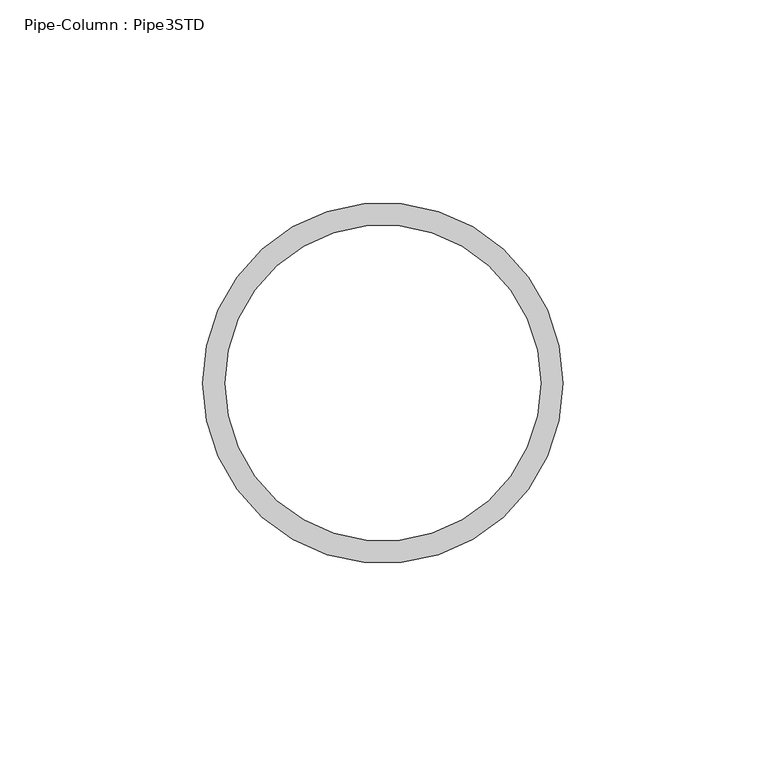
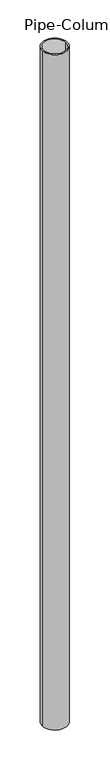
"""IFC4 building model written with IfcOpenShell, lengths in millimetres: column geometry, Pipe-Column : Pipe3STD."""

import ifcopenshell
import ifcopenshell.guid

model = None  # the IFC model being written
_history = None  # IfcOwnerHistory: only IFC2X3 demands one
_inside = {}  # id of a spatial element -> (the spatial element, [elements in it])
_under = {}  # id of a project, library or spatial element -> (it, [spatial elements below it])
_declared = {}  # id of a project -> (the project, [libraries it declares])
_typed = {}  # id of a type object -> (the type object, [elements of that type])
_made_of = {}  # id of a material, layer set ... -> (it, [elements and type objects made of it])


def new_model(schema):
    """Start an empty IFC model of exactly this schema.

    Asked for "IFC4X3", IfcOpenShell would pick the latest addendum, in which some entities
    have other attributes; the version numbers below select the first issue.
    IFC2X3 requires an IfcOwnerHistory on every rooted entity: one is made here for all.
    """
    global model, _history
    if schema == "IFC4X3":
        model = ifcopenshell.file(schema_version=(4, 3, 0, 0))
    else:
        model = ifcopenshell.file(schema=schema)
    _inside.clear()
    _under.clear()
    _declared.clear()
    _typed.clear()
    _made_of.clear()
    _history = None
    if model.schema == "IFC2X3":
        org = make("IfcOrganization", Name="unknown")
        user = make(
            "IfcPersonAndOrganization",
            ThePerson=make("IfcPerson", FamilyName="unknown"),
            TheOrganization=org,
        )
        app = make(
            "IfcApplication",
            ApplicationDeveloper=org,
            Version="unknown",
            ApplicationFullName="unknown",
            ApplicationIdentifier="unknown",
        )
        _history = make(
            "IfcOwnerHistory",
            OwningUser=user,
            OwningApplication=app,
            ChangeAction="ADDED",
            CreationDate=0,
        )
    return model


def make(cls, **values):
    """One entity of the class cls with the attributes given. An attribute that is None is left unset."""
    return model.create_entity(
        cls, **{name: value for name, value in values.items() if value is not None}
    )


def rooted(cls, **values):
    """An entity with a GlobalId (a new one), such as an element, a storey or a relation."""
    return make(cls, GlobalId=ifcopenshell.guid.new(), OwnerHistory=_history, **values)


def si_unit(unit_type, name, prefix=None):
    """IfcSIUnit, for example si_unit("LENGTHUNIT", "METRE", prefix="MILLI")."""
    return make("IfcSIUnit", UnitType=unit_type, Prefix=prefix, Name=name)


def assignment(units):
    """IfcUnitAssignment: the units of a project."""
    return None if units is None else make("IfcUnitAssignment", Units=units)


def point(xyz):
    """IfcCartesianPoint."""
    return None if xyz is None else make("IfcCartesianPoint", Coordinates=xyz)


def direction(xyz):
    """IfcDirection."""
    return None if xyz is None else make("IfcDirection", DirectionRatios=xyz)


def frame(location, z_axis=None, x_axis=None):
    """IfcAxis2Placement3D, a coordinate frame: its origin and axes. An axis left out is left unset."""
    return make(
        "IfcAxis2Placement3D",
        Location=point(location),
        Axis=direction(z_axis),
        RefDirection=direction(x_axis),
    )


def frame_2d(location, x_axis=None):
    """IfcAxis2Placement2D, a coordinate frame in the plane: its origin and x axis."""
    return make(
        "IfcAxis2Placement2D", Location=point(location), RefDirection=direction(x_axis)
    )


def origin():
    """The frame at (0, 0, 0) with its axes left unset."""
    return frame((0.0, 0.0, 0.0))


def origin_2d():
    """The frame at (0, 0) in the plane with its x axis left unset."""
    return frame_2d((0.0, 0.0))


def place(relative_to, where):
    """IfcLocalPlacement: puts the frame where relative to a parent placement (None: the world)."""
    return make(
        "IfcLocalPlacement", PlacementRelTo=relative_to, RelativePlacement=where
    )


def context(
    kind, dimensions, precision=None, world=None, true_north=None, identifier=None
):
    """IfcGeometricRepresentationContext, for example the 3D "Model" context."""
    return make(
        "IfcGeometricRepresentationContext",
        ContextIdentifier=identifier,
        ContextType=kind,
        CoordinateSpaceDimension=dimensions,
        Precision=precision,
        WorldCoordinateSystem=world,
        TrueNorth=true_north,
    )


def project(units=None, contexts=None):
    """IfcProject with its units and contexts."""
    return rooted(
        "IfcProject",
        Name="project",
        RepresentationContexts=contexts,
        UnitsInContext=assignment(units),
    )


def spatial(cls, under=None, at=None, **own):
    """A site, building, storey or space (cls), placed at a placement, below another one or the project."""
    s = rooted(cls, ObjectPlacement=at, **own)
    if under is not None:
        _under.setdefault(under.id(), (under, []))[1].append(s)
    return s


def circle_curve(where, radius):
    """IfcCircle in the frame where."""
    return make("IfcCircle", Position=where, Radius=radius)


def trimmed(basis, trim1, trim2, sense, master):
    """IfcTrimmedCurve: the piece of a basis curve between two trims."""
    return make(
        "IfcTrimmedCurve",
        BasisCurve=basis,
        Trim1=trim1,
        Trim2=trim2,
        SenseAgreement=sense,
        MasterRepresentation=master,
    )


def segment(curve, same_sense, transition):
    """IfcCompositeCurveSegment."""
    return make(
        "IfcCompositeCurveSegment",
        Transition=transition,
        SameSense=same_sense,
        ParentCurve=curve,
    )


def composite_curve(segments, self_intersect=None):
    """IfcCompositeCurve: segments joined end to end."""
    return make("IfcCompositeCurve", Segments=segments, SelfIntersect=self_intersect)


def outline(outer, holes=None, kind="AREA"):
    """IfcArbitraryClosedProfileDef: a profile drawn as a closed curve; with holes, ...WithVoids."""
    if holes is None:
        return make("IfcArbitraryClosedProfileDef", ProfileType=kind, OuterCurve=outer)
    return make(
        "IfcArbitraryProfileDefWithVoids",
        ProfileType=kind,
        OuterCurve=outer,
        InnerCurves=holes,
    )


def extrude(swept, where, along, depth):
    """IfcExtrudedAreaSolid: the profile swept, set in the frame where, extruded along a direction by depth."""
    return make(
        "IfcExtrudedAreaSolid",
        SweptArea=swept,
        Position=where,
        ExtrudedDirection=direction(along),
        Depth=depth,
    )


def shape(context_of_items, identifier, shape_type, items):
    """IfcShapeRepresentation: the items that make up one representation, for example the "Body"."""
    return make(
        "IfcShapeRepresentation",
        ContextOfItems=context_of_items,
        RepresentationIdentifier=identifier,
        RepresentationType=shape_type,
        Items=items,
    )


def source(mapping_origin, context_of_items, identifier, shape_type, items):
    """IfcRepresentationMap: a shape defined once, which mapped items show again and again."""
    return make(
        "IfcRepresentationMap",
        MappingOrigin=mapping_origin,
        MappedRepresentation=shape(context_of_items, identifier, shape_type, items),
    )


def transform(
    local_origin,
    x_axis=None,
    y_axis=None,
    z_axis=None,
    scale=None,
    scale2=None,
    scale3=None,
    uniform=True,
):
    """IfcCartesianTransformationOperator3D, or its non-uniform kind. x_axis, y_axis, z_axis: its Axis1, 2, 3."""
    if uniform:
        return make(
            "IfcCartesianTransformationOperator3D",
            Axis1=direction(x_axis),
            Axis2=direction(y_axis),
            LocalOrigin=point(local_origin),
            Scale=scale,
            Axis3=direction(z_axis),
        )
    return make(
        "IfcCartesianTransformationOperator3DnonUniform",
        Axis1=direction(x_axis),
        Axis2=direction(y_axis),
        LocalOrigin=point(local_origin),
        Scale=scale,
        Axis3=direction(z_axis),
        Scale2=scale2,
        Scale3=scale3,
    )


def mapped(mapping_source, mapping_target):
    """IfcMappedItem: shows the shape of a source again, moved by a transform."""
    return make(
        "IfcMappedItem", MappingSource=mapping_source, MappingTarget=mapping_target
    )


def made_of(thing, what):
    """Note that an element or type object is made of a material, layer set ...; save() writes the relation."""
    if what is not None:
        _made_of.setdefault(what.id(), (what, []))[1].append(thing)
    return thing


def element(
    cls,
    number,
    at=None,
    inside=None,
    cuts=None,
    type_object=None,
    material=None,
    context=None,
    identifier="Body",
    shape_type=None,
    held_by="IfcProductDefinitionShape",
    body=None,
    shapes=None,
    **own,
):
    """One element of the class cls, such as IfcWall. Its Tag is "e" and its number.

    at: its placement. inside: the storey or other place that contains it. cuts: it is an
    opening in that element (IfcRelVoidsElement). A single representation is given by context,
    identifier, shape_type and body (its items); several are given by shapes. held_by: the class
    of the entity that holds the representations. save() writes the other relations.
    """
    e = rooted(cls, Tag="e%d" % number, ObjectPlacement=at, **own)
    if body is not None:
        shapes = [shape(context, identifier, shape_type, body)]
    if shapes is not None:
        e.Representation = make(held_by, Representations=shapes)
    if inside is not None:
        _inside.setdefault(inside.id(), (inside, []))[1].append(e)
    if cuts is not None:
        rooted(
            "IfcRelVoidsElement", RelatingBuildingElement=cuts, RelatedOpeningElement=e
        )
    if type_object is not None:
        _typed.setdefault(type_object.id(), (type_object, []))[1].append(e)
    return made_of(e, material)


def aggregate(whole, parts):
    """IfcRelAggregates: a whole, such as a stair, and the parts it consists of."""
    return rooted("IfcRelAggregates", RelatingObject=whole, RelatedObjects=parts)


def save(model, path):
    """Write the relations noted so far, then the file.

    IfcRelAggregates (storeys below a building ...), IfcRelContainedInSpatialStructure (elements
    in a storey), IfcRelDefinesByType, IfcRelAssociatesMaterial and IfcRelDeclares: one each for
    every whole, place, type object, material and project.
    """
    for whole, parts in _under.values():
        aggregate(whole, parts)
    for where, things in _inside.values():
        rooted(
            "IfcRelContainedInSpatialStructure",
            RelatedElements=things,
            RelatingStructure=where,
        )
    for kind, things in _typed.values():
        rooted("IfcRelDefinesByType", RelatedObjects=things, RelatingType=kind)
    for what, things in _made_of.values():
        rooted("IfcRelAssociatesMaterial", RelatedObjects=things, RelatingMaterial=what)
    for by, libraries in _declared.values():
        rooted("IfcRelDeclares", RelatingContext=by, RelatedDefinitions=libraries)
    model.write(path)


def pipe_column_pipe3std_58bc24d5(model_context):
    return source(origin(), model_context, "Body", "SweptSolid", [
        extrude(outline(composite_curve([segment(trimmed(circle_curve(origin_2d(), 44.45), [point((-44.45, 0.0))], [point((44.45, 0.0))], False, "CARTESIAN"), True, "CONTINUOUS"), segment(trimmed(circle_curve(origin_2d(), 44.45), [point((44.45, 0.0))], [point((-44.45, 0.0))], False, "CARTESIAN"), True, "CONTINUOUS")], self_intersect=False), holes=[composite_curve([segment(trimmed(circle_curve(origin_2d(), 38.9636), [point((-38.9636, 0.0))], [point((38.9636, 0.0))], True, "CARTESIAN"), True, "CONTINUOUS"), segment(trimmed(circle_curve(origin_2d(), 38.9636), [point((38.9636, 0.0))], [point((-38.9636, 0.0))], True, "CARTESIAN"), True, "CONTINUOUS")], self_intersect=False)]), frame((0.0, 0.0, -1047.75), z_axis=(0.0, 0.0, 1.0), x_axis=(1.0, 0.0, 0.0)), (0.0, 0.0, 1.0), 2514.6),
    ])


if __name__ == "__main__":
    model = new_model("IFC4")
    model_context = context("Model", 3, world=origin())
    ifc_project = project(units=[si_unit("LENGTHUNIT", "METRE", prefix="MILLI")], contexts=[model_context])
    site = spatial("IfcSite", under=ifc_project)
    building = spatial("IfcBuilding", under=site)
    placement = place(None, origin())
    pipe_column_pipe3std_shape = pipe_column_pipe3std_58bc24d5(model_context)
    element("IfcColumn", 1, ObjectType="Pipe-Column : Pipe3STD", at=placement, inside=building, context=model_context, shape_type="MappedRepresentation", body=[
        mapped(pipe_column_pipe3std_shape, transform((0.0, 0.0, 0.0), x_axis=(1.0, 0.0, 0.0), y_axis=(0.0, 1.0, 0.0), z_axis=(0.0, 0.0, 1.0))),
    ])
    save(model, "model.ifc")
